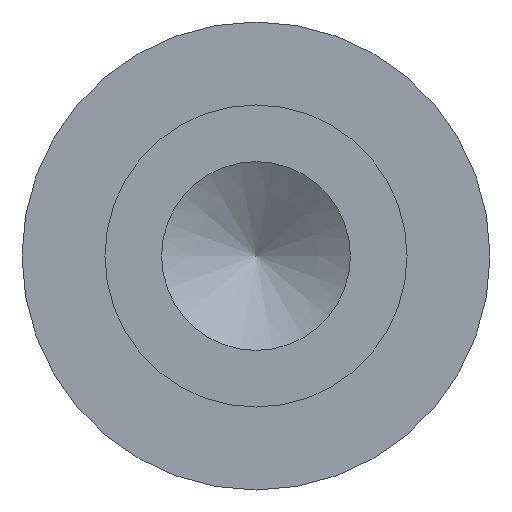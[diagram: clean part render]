
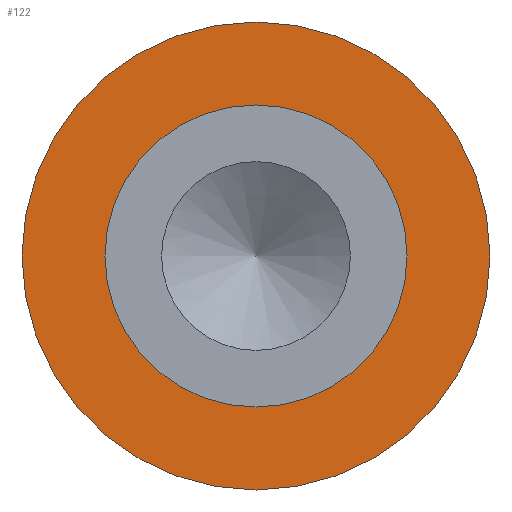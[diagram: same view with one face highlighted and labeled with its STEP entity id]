
A CAD part, left-side view. The second image highlights one B-rep face of the part: STEP entity #122.
In plain terms, the highlighted planar face has unit normal (-1, 0, 0).
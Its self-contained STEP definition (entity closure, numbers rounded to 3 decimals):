
#15=PLANE($,#145);
#24=FACE_BOUND($,#57,.T.);
#40=FACE_OUTER_BOUND($,#56,.T.);
#56=EDGE_LOOP($,(#106));
#57=EDGE_LOOP($,(#107));
#69=CIRCLE($,#143,0.508);
#71=CIRCLE($,#146,0.787);
#79=VERTEX_POINT($,#216);
#81=VERTEX_POINT($,#221);
#89=EDGE_CURVE($,#79,#79,#69,.T.);
#91=EDGE_CURVE($,#81,#81,#71,.T.);
#106=ORIENTED_EDGE($,*,*,#91,.F.);
#107=ORIENTED_EDGE($,*,*,#89,.T.);
#122=ADVANCED_FACE($,(#40,#24),#15,.T.);
#143=AXIS2_PLACEMENT_3D($,#217,#181,#182);
#145=AXIS2_PLACEMENT_3D($,#220,#185,#186);
#146=AXIS2_PLACEMENT_3D($,#222,#187,#188);
#181=DIRECTION('center_axis',(1.,0.,0.));
#182=DIRECTION('ref_axis',(0.,1.,0.));
#185=DIRECTION('center_axis',(-1.,0.,0.));
#186=DIRECTION('ref_axis',(0.,0.,1.));
#187=DIRECTION('center_axis',(1.,0.,0.));
#188=DIRECTION('ref_axis',(0.,1.,0.));
#216=CARTESIAN_POINT('',(2.87,0.508,0.));
#217=CARTESIAN_POINT('Origin',(2.87,0.,0.));
#220=CARTESIAN_POINT('Origin',(2.87,0.648,0.));
#221=CARTESIAN_POINT('',(2.87,0.787,0.));
#222=CARTESIAN_POINT('Origin',(2.87,0.,0.));
